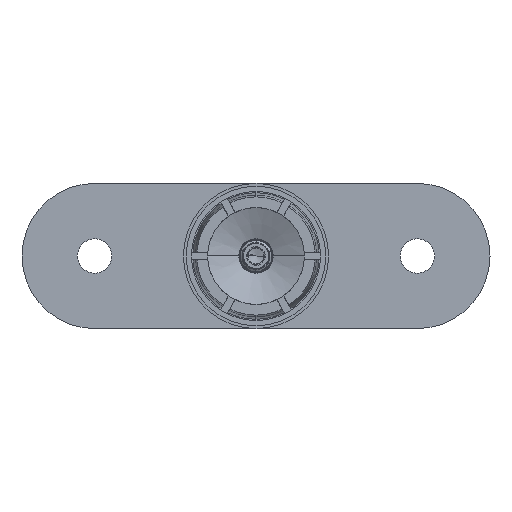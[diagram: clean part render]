
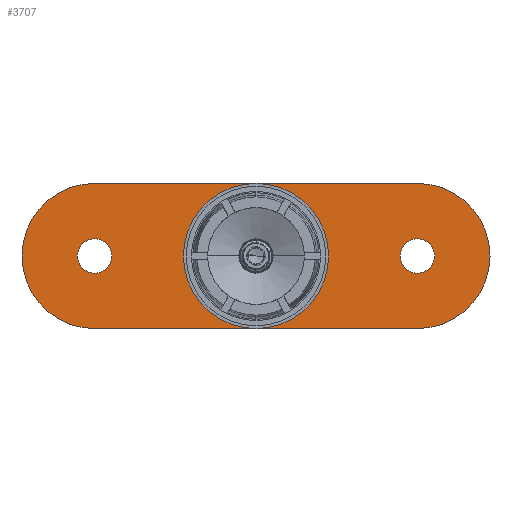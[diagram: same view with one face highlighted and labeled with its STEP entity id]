
A CAD part, left-side view. The second image highlights one B-rep face of the part: STEP entity #3707.
In plain terms, the highlighted planar face has unit normal (-1, 0, 0) as drawn and (0, 0, -1) by its records, which use the part's own axes.
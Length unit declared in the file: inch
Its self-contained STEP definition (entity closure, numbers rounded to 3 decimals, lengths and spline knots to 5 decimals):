
#149 = EDGE_CURVE ( 'NONE', #18389, #6293, #9763, .T. ) ;
#202 = AXIS2_PLACEMENT_3D ( 'NONE', #7004, #21647, #9110 ) ;
#362 = ORIENTED_EDGE ( 'NONE', *, *, #18205, .F. ) ;
#711 = CARTESIAN_POINT ( 'NONE',  ( -0.625, 0., -0.18 ) ) ;
#845 = EDGE_CURVE ( 'NONE', #24902, #10475, #18900, .T. ) ;
#870 = CARTESIAN_POINT ( 'NONE',  ( 0.492, 0., -0.18 ) ) ;
#1407 = VERTEX_POINT ( 'NONE', #23771 ) ;
#1697 = DIRECTION ( 'NONE',  ( 0., 0., -1. ) ) ;
#1704 = CARTESIAN_POINT ( 'NONE',  ( 1.742, 0., -0.18 ) ) ;
#1920 = CARTESIAN_POINT ( 'NONE',  ( -0.758, 0., -0.18 ) ) ;
#2038 = FACE_BOUND ( 'NONE', #22041, .T. ) ;
#2170 = DIRECTION ( 'NONE',  ( -1., 0., 0. ) ) ;
#2282 = CARTESIAN_POINT ( 'NONE',  ( -0.625, -0.5625, -0.18 ) ) ;
#2704 = CARTESIAN_POINT ( 'NONE',  ( -0.492, 0., -0.18 ) ) ;
#2792 = CIRCLE ( 'NONE', #23255, 0.5625 ) ;
#2804 = DIRECTION ( 'NONE',  ( 1., 0., 0. ) ) ;
#2825 = DIRECTION ( 'NONE',  ( 0., 0., -1. ) ) ;
#3239 = ORIENTED_EDGE ( 'NONE', *, *, #15339, .T. ) ;
#3707 = ADVANCED_FACE ( 'NONE', ( #2038, #18042, #13130, #7551 ), #23728, .F. ) ;
#3900 = CARTESIAN_POINT ( 'NONE',  ( 1.875, 0., -0.18 ) ) ;
#4427 = VECTOR ( 'NONE', #14790, 39.37008 ) ;
#4767 = EDGE_CURVE ( 'NONE', #17677, #1407, #15341, .T. ) ;
#5072 = LINE ( 'NONE', #2282, #4427 ) ;
#5076 = DIRECTION ( 'NONE',  ( 0., 0., 1. ) ) ;
#5094 = DIRECTION ( 'NONE',  ( 0., 0., -1. ) ) ;
#5102 = DIRECTION ( 'NONE',  ( 1., 0., 0. ) ) ;
#5442 = ORIENTED_EDGE ( 'NONE', *, *, #25075, .F. ) ;
#5831 = ORIENTED_EDGE ( 'NONE', *, *, #10206, .T. ) ;
#5987 = DIRECTION ( 'NONE',  ( 1., 0., 0. ) ) ;
#6293 = VERTEX_POINT ( 'NONE', #870 ) ;
#6588 = EDGE_CURVE ( 'NONE', #6293, #18389, #6668, .T. ) ;
#6668 = CIRCLE ( 'NONE', #10216, 0.133 ) ;
#7004 = CARTESIAN_POINT ( 'NONE',  ( -0.625, 0., -0.18 ) ) ;
#7551 = FACE_BOUND ( 'NONE', #22677, .T. ) ;
#7688 = CARTESIAN_POINT ( 'NONE',  ( 0.625, 0., -0.18 ) ) ;
#7820 = AXIS2_PLACEMENT_3D ( 'NONE', #17598, #5076, #19708 ) ;
#8577 = VERTEX_POINT ( 'NONE', #9302 ) ;
#8749 = DIRECTION ( 'NONE',  ( 0., 0., 1. ) ) ;
#9110 = DIRECTION ( 'NONE',  ( 1., 0., 0. ) ) ;
#9302 = CARTESIAN_POINT ( 'NONE',  ( 2.4375, 0., -0.18 ) ) ;
#9763 = CIRCLE ( 'NONE', #13076, 0.133 ) ;
#9792 = DIRECTION ( 'NONE',  ( 0., 0., 1. ) ) ;
#9802 = DIRECTION ( 'NONE',  ( 1., 0., 0. ) ) ;
#9843 = CARTESIAN_POINT ( 'NONE',  ( 0.758, 0., -0.18 ) ) ;
#10206 = EDGE_CURVE ( 'NONE', #17677, #8577, #22158, .T. ) ;
#10212 = VERTEX_POINT ( 'NONE', #1704 ) ;
#10216 = AXIS2_PLACEMENT_3D ( 'NONE', #7688, #22335, #9802 ) ;
#10475 = VERTEX_POINT ( 'NONE', #25636 ) ;
#11239 = ORIENTED_EDGE ( 'NONE', *, *, #6588, .T. ) ;
#11279 = CARTESIAN_POINT ( 'NONE',  ( 2.008, 0., -0.18 ) ) ;
#11398 = DIRECTION ( 'NONE',  ( 0., 0., 1. ) ) ;
#11743 = ORIENTED_EDGE ( 'NONE', *, *, #4767, .F. ) ;
#11879 = ORIENTED_EDGE ( 'NONE', *, *, #149, .T. ) ;
#12581 = CARTESIAN_POINT ( 'NONE',  ( 0.625, 0.5625, -0.18 ) ) ;
#12887 = VERTEX_POINT ( 'NONE', #11279 ) ;
#13076 = AXIS2_PLACEMENT_3D ( 'NONE', #19007, #11398, #5102 ) ;
#13130 = FACE_OUTER_BOUND ( 'NONE', #20970, .T. ) ;
#13233 = EDGE_CURVE ( 'NONE', #10212, #12887, #26269, .T. ) ;
#13298 = AXIS2_PLACEMENT_3D ( 'NONE', #21285, #8749, #23397 ) ;
#13299 = ORIENTED_EDGE ( 'NONE', *, *, #18212, .T. ) ;
#14212 = CARTESIAN_POINT ( 'NONE',  ( 1.875, 0., -0.18 ) ) ;
#14559 = CIRCLE ( 'NONE', #202, 0.133 ) ;
#14790 = DIRECTION ( 'NONE',  ( 1., 0., 0. ) ) ;
#15300 = DIRECTION ( 'NONE',  ( 0., 0., 1. ) ) ;
#15326 = CARTESIAN_POINT ( 'NONE',  ( 1.875, 0., -0.18 ) ) ;
#15339 = EDGE_CURVE ( 'NONE', #8577, #20703, #18611, .T. ) ;
#15341 = LINE ( 'NONE', #12581, #25182 ) ;
#16104 = ORIENTED_EDGE ( 'NONE', *, *, #13233, .F. ) ;
#16304 = DIRECTION ( 'NONE',  ( 1., 0., 0. ) ) ;
#16557 = ORIENTED_EDGE ( 'NONE', *, *, #18088, .T. ) ;
#16893 = CARTESIAN_POINT ( 'NONE',  ( 1.875, -0.5625, -0.18 ) ) ;
#17067 = EDGE_CURVE ( 'NONE', #10475, #20703, #5072, .T. ) ;
#17140 = AXIS2_PLACEMENT_3D ( 'NONE', #22327, #9792, #24432 ) ;
#17457 = DIRECTION ( 'NONE',  ( 1., 0., 0. ) ) ;
#17598 = CARTESIAN_POINT ( 'NONE',  ( -0.625, 0., -0.18 ) ) ;
#17620 = CARTESIAN_POINT ( 'NONE',  ( 1.875, 0., -0.18 ) ) ;
#17677 = VERTEX_POINT ( 'NONE', #23701 ) ;
#18042 = FACE_BOUND ( 'NONE', #24242, .T. ) ;
#18088 = EDGE_CURVE ( 'NONE', #20677, #20014, #24713, .T. ) ;
#18205 = EDGE_CURVE ( 'NONE', #12887, #10212, #20121, .T. ) ;
#18212 = EDGE_CURVE ( 'NONE', #20014, #20677, #14559, .T. ) ;
#18389 = VERTEX_POINT ( 'NONE', #9843 ) ;
#18521 = DIRECTION ( 'NONE',  ( 0., 0., -1. ) ) ;
#18611 = CIRCLE ( 'NONE', #25862, 0.5625 ) ;
#18900 = CIRCLE ( 'NONE', #17140, 0.5625 ) ;
#19007 = CARTESIAN_POINT ( 'NONE',  ( 0.625, 0., -0.18 ) ) ;
#19708 = DIRECTION ( 'NONE',  ( 1., 0., 0. ) ) ;
#19729 = DIRECTION ( 'NONE',  ( 1., 0., 0. ) ) ;
#20014 = VERTEX_POINT ( 'NONE', #2704 ) ;
#20121 = CIRCLE ( 'NONE', #25936, 0.133 ) ;
#20216 = AXIS2_PLACEMENT_3D ( 'NONE', #14212, #1697, #16304 ) ;
#20677 = VERTEX_POINT ( 'NONE', #1920 ) ;
#20703 = VERTEX_POINT ( 'NONE', #16893 ) ;
#20970 = EDGE_LOOP ( 'NONE', ( #5442, #11743, #5831, #3239, #21968, #25188 ) ) ;
#21007 = CARTESIAN_POINT ( 'NONE',  ( -1.1875, 0., -0.18 ) ) ;
#21285 = CARTESIAN_POINT ( 'NONE',  ( -0.625, 0., -0.18 ) ) ;
#21647 = DIRECTION ( 'NONE',  ( 0., 0., 1. ) ) ;
#21968 = ORIENTED_EDGE ( 'NONE', *, *, #17067, .F. ) ;
#22041 = EDGE_LOOP ( 'NONE', ( #11879, #11239 ) ) ;
#22158 = CIRCLE ( 'NONE', #26254, 0.5625 ) ;
#22327 = CARTESIAN_POINT ( 'NONE',  ( -0.625, 0., -0.18 ) ) ;
#22335 = DIRECTION ( 'NONE',  ( 0., 0., 1. ) ) ;
#22677 = EDGE_LOOP ( 'NONE', ( #362, #16104 ) ) ;
#23255 = AXIS2_PLACEMENT_3D ( 'NONE', #711, #15300, #2804 ) ;
#23397 = DIRECTION ( 'NONE',  ( 1., 0., 0. ) ) ;
#23701 = CARTESIAN_POINT ( 'NONE',  ( 1.875, 0.5625, -0.18 ) ) ;
#23728 = PLANE ( 'NONE',  #7820 ) ;
#23771 = CARTESIAN_POINT ( 'NONE',  ( -0.625, 0.5625, -0.18 ) ) ;
#24242 = EDGE_LOOP ( 'NONE', ( #13299, #16557 ) ) ;
#24432 = DIRECTION ( 'NONE',  ( 1., 0., 0. ) ) ;
#24713 = CIRCLE ( 'NONE', #13298, 0.133 ) ;
#24902 = VERTEX_POINT ( 'NONE', #21007 ) ;
#25075 = EDGE_CURVE ( 'NONE', #1407, #24902, #2792, .T. ) ;
#25182 = VECTOR ( 'NONE', #2170, 39.37008 ) ;
#25188 = ORIENTED_EDGE ( 'NONE', *, *, #845, .F. ) ;
#25636 = CARTESIAN_POINT ( 'NONE',  ( -0.625, -0.5625, -0.18 ) ) ;
#25862 = AXIS2_PLACEMENT_3D ( 'NONE', #17620, #5094, #19729 ) ;
#25936 = AXIS2_PLACEMENT_3D ( 'NONE', #15326, #2825, #17457 ) ;
#26254 = AXIS2_PLACEMENT_3D ( 'NONE', #3900, #18521, #5987 ) ;
#26269 = CIRCLE ( 'NONE', #20216, 0.133 ) ;
